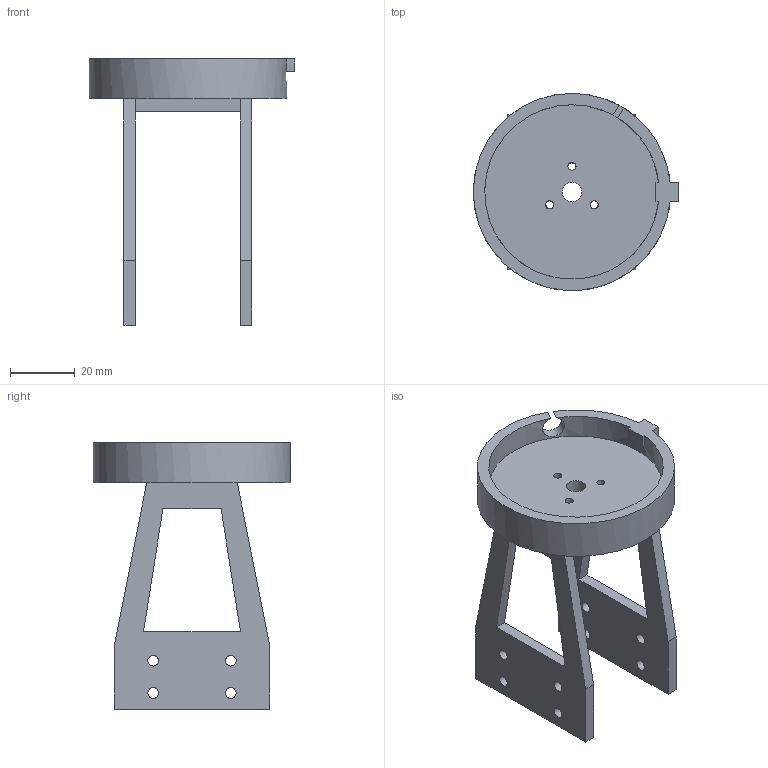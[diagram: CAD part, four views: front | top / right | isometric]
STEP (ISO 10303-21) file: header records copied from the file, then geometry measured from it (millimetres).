
FILE_DESCRIPTION(('Open CASCADE Model'),'2;1');
FILE_NAME('Open CASCADE Shape Model','2026-10-15T21:05:20',('Author'),( 'Open CASCADE'),'Open CASCADE STEP processor 7.9','Open CASCADE 7.9' ,'Unknown');
FILE_SCHEMA(('AUTOMOTIVE_DESIGN { 1 0 10303 214 1 1 1 1 }'));
Length unit declared in the file: millimetre
Products named in the file (1): Open CASCADE STEP translator 7.9 6
Bounding box: 63.5 x 61 x 82.4 mm (x, y, z)
Volume: 35052.2 mm3; surface area: 19879.2 mm2
Topology: 1 solids, 1 shells, 56 faces, 161 edges, 106 vertices
Faces by surface type: plane 40, cylinder 16
Full cylindrical faces by diameter (mm): 2.5 x3, 3.3 x8, 6 x1, 18 x1, 54 x1, 61 x1
Entity records: 4586 total; most frequent: CARTESIAN_POINT 1452, DIRECTION 547, ORIENTED_EDGE 322, PCURVE 322, DEFINITIONAL_REPRESENTATION 322, LINE 313, VECTOR 313, EDGE_CURVE 161
